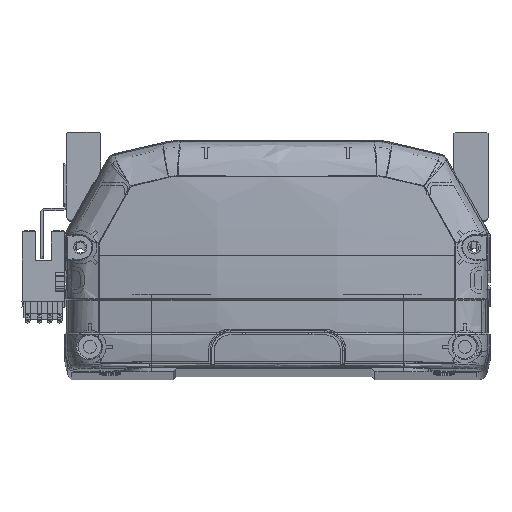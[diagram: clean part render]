
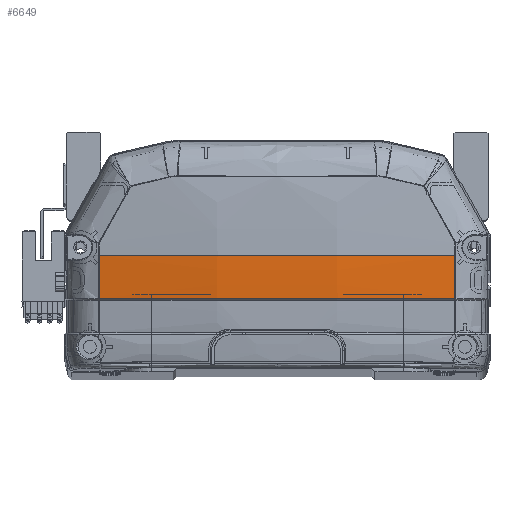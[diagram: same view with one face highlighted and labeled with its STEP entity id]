
A CAD part, top view. The second image highlights one B-rep face of the part: STEP entity #6649.
In plain terms, the highlighted free-form (B-spline) face has degree [3, 3] with [4, 4] control points.
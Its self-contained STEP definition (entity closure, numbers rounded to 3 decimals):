
#535 = CARTESIAN_POINT ( 'NONE',  ( -57.335, 36., -5.042 ) ) ;
#1219 = CARTESIAN_POINT ( 'NONE',  ( 56.647, 35.969, -5.158 ) ) ;
#1439 = CARTESIAN_POINT ( 'NONE',  ( 4.761, 22.225, -9.537 ) ) ;
#3991 = CARTESIAN_POINT ( 'NONE',  ( 19.295, 31.274, -11.535 ) ) ;
#4144 = CARTESIAN_POINT ( 'NONE',  ( 57.335, 26.762, -4.928 ) ) ;
#4381 = CARTESIAN_POINT ( 'NONE',  ( 11.954, 22.225, -9.367 ) ) ;
#4717 = CARTESIAN_POINT ( 'NONE',  ( -19.28, 22.225, -9.565 ) ) ;
#5044 = CARTESIAN_POINT ( 'NONE',  ( 1.152, 22.225, -9.568 ) ) ;
#6649 = ADVANCED_FACE ( 'NONE', ( #30882 ), #17444, .T. ) ;
#7661 = CARTESIAN_POINT ( 'NONE',  ( 47.432, 22.225, -6.377 ) ) ;
#7733 = CARTESIAN_POINT ( 'NONE',  ( -57.335, 22.148, -4.7 ) ) ;
#7906 = CARTESIAN_POINT ( 'NONE',  ( -19.295, 26.549, -11.419 ) ) ;
#8799 = CARTESIAN_POINT ( 'NONE',  ( -56.661, 22.225, -4.818 ) ) ;
#9855 = ORIENTED_EDGE ( 'NONE', *, *, #21699, .T. ) ;
#11473 = CARTESIAN_POINT ( 'NONE',  ( -57.335, 26.762, -4.928 ) ) ;
#12050 = CARTESIAN_POINT ( 'NONE',  ( 8.363, 22.225, -9.48 ) ) ;
#12460 = VERTEX_POINT ( 'NONE', #28701 ) ;
#12647 = CARTESIAN_POINT ( 'NONE',  ( -56.647, 36., -5.158 ) ) ;
#15382 = B_SPLINE_CURVE_WITH_KNOTS ( 'NONE', 3,
 ( #15480, #7661, #19919, #23692, #23376, #4381, #12050, #1439, #30568, #5044, #4717, #19755, #8799 ),
 .UNSPECIFIED., .F., .F.,
 ( 4, 2, 2, 1, 2, 2, 4 ),
 ( 0., 0.25, 0.375, 0.438, 0.469, 0.5, 1. ),
 .UNSPECIFIED. ) ;
#15398 = CARTESIAN_POINT ( 'NONE',  ( -19.295, 21.828, -11.186 ) ) ;
#15480 = CARTESIAN_POINT ( 'NONE',  ( 56.661, 22.225, -4.818 ) ) ;
#16268 = CARTESIAN_POINT ( 'NONE',  ( 56.647, 35.969, -5.158 ) ) ;
#16589 = CARTESIAN_POINT ( 'NONE',  ( 56.652, 26.806, -5.044 ) ) ;
#17444 =( BOUNDED_SURFACE ( )  B_SPLINE_SURFACE ( 3, 3, ( 
 ( #30002, #4144, #22648, #45189 ),
 ( #22958, #26398, #3991, #30162 ),
 ( #15398, #7906, #34059, #48332 ),
 ( #7733, #11473, #30487, #535 ) ),
 .UNSPECIFIED., .F., .F., .T. ) 
 B_SPLINE_SURFACE_WITH_KNOTS ( ( 4, 4 ),
 ( 4, 4 ),
 ( 0., 1. ),
 ( 0., 1. ),
 .UNSPECIFIED. ) 
 GEOMETRIC_REPRESENTATION_ITEM ( )  RATIONAL_B_SPLINE_SURFACE ( (
 ( 1., 1., 1., 1.),
 ( 0.99, 0.99, 0.99, 0.99),
 ( 0.99, 0.99, 0.99, 0.99),
 ( 1., 1., 1., 1.) ) ) 
 REPRESENTATION_ITEM ( '' )  SURFACE ( )  );
#17801 = CARTESIAN_POINT ( 'NONE',  ( 0., 36., 330.833 ) ) ;
#17804 = VERTEX_POINT ( 'NONE', #16268 ) ;
#19605 = ORIENTED_EDGE ( 'NONE', *, *, #21072, .F. ) ;
#19755 = CARTESIAN_POINT ( 'NONE',  ( -38.235, 22.225, -7.93 ) ) ;
#19919 = CARTESIAN_POINT ( 'NONE',  ( 38.071, 22.225, -7.566 ) ) ;
#20036 = CARTESIAN_POINT ( 'NONE',  ( -56.661, 22.225, -4.818 ) ) ;
#20369 = CARTESIAN_POINT ( 'NONE',  ( -56.647, 36., -5.158 ) ) ;
#20780 = DIRECTION ( 'NONE',  ( 0., 0., -1. ) ) ;
#21072 = EDGE_CURVE ( 'NONE', #35008, #12460, #32660, .T. ) ;
#21274 = DIRECTION ( 'NONE',  ( -1., 0., 0. ) ) ;
#21699 = EDGE_CURVE ( 'NONE', #45924, #12460, #15382, .T. ) ;
#22441 = ORIENTED_EDGE ( 'NONE', *, *, #29386, .F. ) ;
#22648 = CARTESIAN_POINT ( 'NONE',  ( 57.335, 31.38, -5.042 ) ) ;
#22958 = CARTESIAN_POINT ( 'NONE',  ( 19.295, 21.828, -11.186 ) ) ;
#23376 = CARTESIAN_POINT ( 'NONE',  ( 19.121, 22.225, -9.064 ) ) ;
#23658 = B_SPLINE_CURVE_WITH_KNOTS ( 'NONE', 3,
 ( #34893, #16589, #42143, #1219 ),
 .UNSPECIFIED., .F., .F.,
 ( 4, 4 ),
 ( 0., 1. ),
 .UNSPECIFIED. ) ;
#23692 = CARTESIAN_POINT ( 'NONE',  ( 23.877, 22.225, -8.763 ) ) ;
#24552 = DIRECTION ( 'NONE',  ( 0., 1., 0. ) ) ;
#26398 = CARTESIAN_POINT ( 'NONE',  ( 19.295, 26.549, -11.419 ) ) ;
#28701 = CARTESIAN_POINT ( 'NONE',  ( -56.661, 22.225, -4.818 ) ) ;
#29386 = EDGE_CURVE ( 'NONE', #45924, #17804, #23658, .T. ) ;
#30002 = CARTESIAN_POINT ( 'NONE',  ( 57.335, 22.148, -4.7 ) ) ;
#30162 = CARTESIAN_POINT ( 'NONE',  ( 19.295, 36., -11.535 ) ) ;
#30487 = CARTESIAN_POINT ( 'NONE',  ( -57.335, 31.38, -5.042 ) ) ;
#30568 = CARTESIAN_POINT ( 'NONE',  ( 2.357, 22.225, -9.562 ) ) ;
#30882 = FACE_OUTER_BOUND ( 'NONE', #34873, .T. ) ;
#31061 = AXIS2_PLACEMENT_3D ( 'NONE', #36128, #20780, #21274 ) ;
#32660 = B_SPLINE_CURVE_WITH_KNOTS ( 'NONE', 3,
 ( #20369, #46382, #45701, #20036 ),
 .UNSPECIFIED., .F., .F.,
 ( 4, 4 ),
 ( 0., 1. ),
 .UNSPECIFIED. ) ;
#34059 = CARTESIAN_POINT ( 'NONE',  ( -19.295, 31.274, -11.535 ) ) ;
#34873 = EDGE_LOOP ( 'NONE', ( #40373, #37802, #22441, #9855, #19605 ) ) ;
#34893 = CARTESIAN_POINT ( 'NONE',  ( 56.661, 22.225, -4.818 ) ) ;
#35008 = VERTEX_POINT ( 'NONE', #12647 ) ;
#35047 = CIRCLE ( 'NONE', #46718, 340.733 ) ;
#35290 = CIRCLE ( 'NONE', #31061, 6395.966 ) ;
#36128 = CARTESIAN_POINT ( 'NONE',  ( 6452.613, 35.969, -5.158 ) ) ;
#37802 = ORIENTED_EDGE ( 'NONE', *, *, #39078, .F. ) ;
#39078 = EDGE_CURVE ( 'NONE', #17804, #46288, #35290, .T. ) ;
#40373 = ORIENTED_EDGE ( 'NONE', *, *, #41285, .F. ) ;
#40660 = CARTESIAN_POINT ( 'NONE',  ( 56.647, 36., -5.158 ) ) ;
#40964 = CARTESIAN_POINT ( 'NONE',  ( 56.661, 22.225, -4.818 ) ) ;
#41285 = EDGE_CURVE ( 'NONE', #46288, #35008, #35047, .T. ) ;
#42143 = CARTESIAN_POINT ( 'NONE',  ( 56.647, 31.387, -5.158 ) ) ;
#45189 = CARTESIAN_POINT ( 'NONE',  ( 57.335, 36., -5.042 ) ) ;
#45701 = CARTESIAN_POINT ( 'NONE',  ( -56.652, 26.814, -5.045 ) ) ;
#45924 = VERTEX_POINT ( 'NONE', #40964 ) ;
#46288 = VERTEX_POINT ( 'NONE', #40660 ) ;
#46382 = CARTESIAN_POINT ( 'NONE',  ( -56.647, 31.405, -5.158 ) ) ;
#46718 = AXIS2_PLACEMENT_3D ( 'NONE', #17801, #24552, #46779 ) ;
#46779 = DIRECTION ( 'NONE',  ( 0., 0., -1. ) ) ;
#48332 = CARTESIAN_POINT ( 'NONE',  ( -19.295, 36., -11.535 ) ) ;
